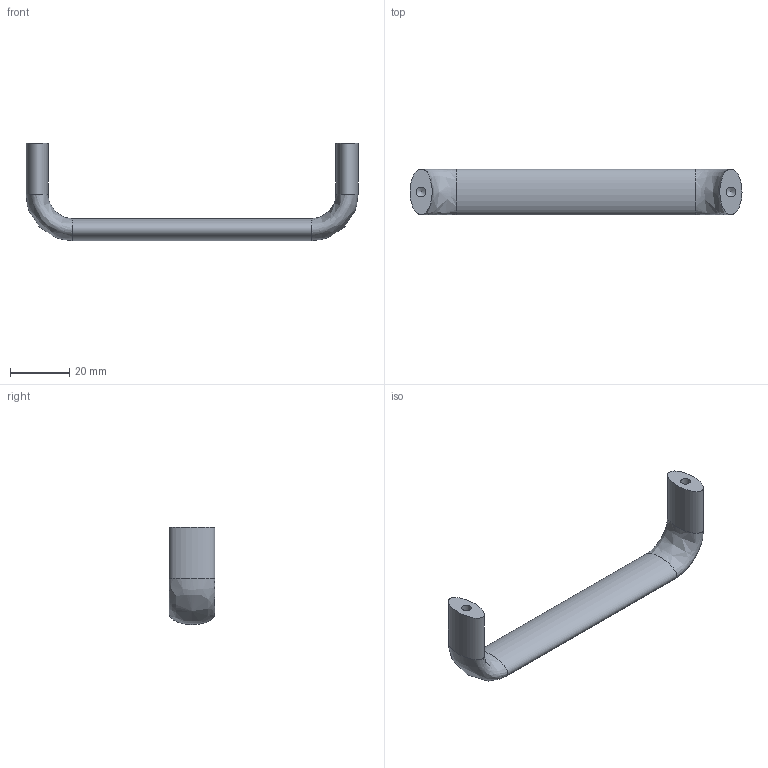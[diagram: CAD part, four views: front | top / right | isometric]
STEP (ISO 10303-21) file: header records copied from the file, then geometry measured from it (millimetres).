
FILE_DESCRIPTION(/* description */ (''),/* implementation_level */ '2;1');
FILE_NAME(/* name */ '\\NAS\db20\A-GA15-105\DR_A-GA15-105.stp',/* time_stamp */ '2017-07-10T16:48:43+09:00',/* author */ ('user'),/* organization */ (''),/* preprocessor_version */ 'ST-DEVELOPER v15.6',/* originating_system */ 'Autodesk Inventor 2015',/* authorisation */ '');
FILE_SCHEMA (('AUTOMOTIVE_DESIGN { 1 0 10303 214 3 1 1 }'));
Length unit declared in the file: millimetre
Products named in the file (1): DR_A-GA15-105
Bounding box: 112.5 x 15.5 x 33 mm (x, y, z)
Volume: 13846.7 mm3; surface area: 6053.8 mm2
Topology: 1 solids, 1 shells, 11 faces, 21 edges, 12 vertices
Faces by surface type: bspline 5, cone 2, cylinder 2, plane 2
Full cylindrical faces by diameter (mm): 3.242 x2
Entity records: 345 total; most frequent: CARTESIAN_POINT 143, DIRECTION 38, ORIENTED_EDGE 30, AXIS2_PLACEMENT_3D 19, EDGE_LOOP 15, EDGE_CURVE 15, FACE_OUTER_BOUND 11, ADVANCED_FACE 11
